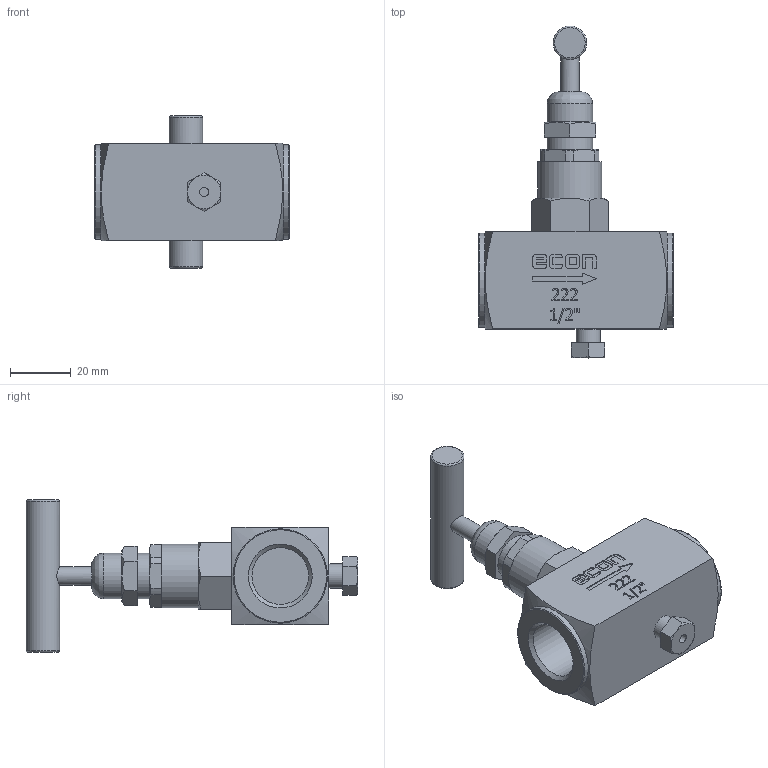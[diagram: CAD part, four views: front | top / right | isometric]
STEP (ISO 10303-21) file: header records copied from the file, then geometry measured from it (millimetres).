
FILE_DESCRIPTION(/* description */ ('Eriks item no: 11810629'),/* implementation_level */ '2;1');
FILE_NAME(/* name */ 'L:\DATA\ENG\Inventor\Econ 3D modellen\naaldafsluiter\222\222-015-PN400.stp',/* time_stamp */ '2024-02-13T11:43:05+01:00',/* author */ ('roger.thijssen'),/* organization */ (''),/* preprocessor_version */ 'ST-DEVELOPER v18',/* originating_system */ 'Autodesk Inventor 2020',/* authorisation */ '');
FILE_SCHEMA (('CONFIG_CONTROL_DESIGN'));
Length unit declared in the file: millimetre
Products named in the file (1): Needle valve, 222-015-PN400
Bounding box: 64 x 109 x 50 mm (x, y, z)
Volume: 74523.7 mm3; surface area: 17092.1 mm2
Topology: 1 solids, 1 shells, 255 faces, 656 edges, 431 vertices
Faces by surface type: plane 147, bspline 46, cylinder 30, cone 28, torus 4
Full cylindrical faces by diameter (mm): 3 x1, 6 x1, 8 x1, 11 x1, 15 x2, 18.631 x2, 21 x1, 31 x2
Entity records: 8462 total; most frequent: CARTESIAN_POINT 2313, ORIENTED_EDGE 1312, DIRECTION 1034, EDGE_CURVE 656, VERTEX_POINT 431, LINE 398, VECTOR 398, AXIS2_PLACEMENT_3D 318
